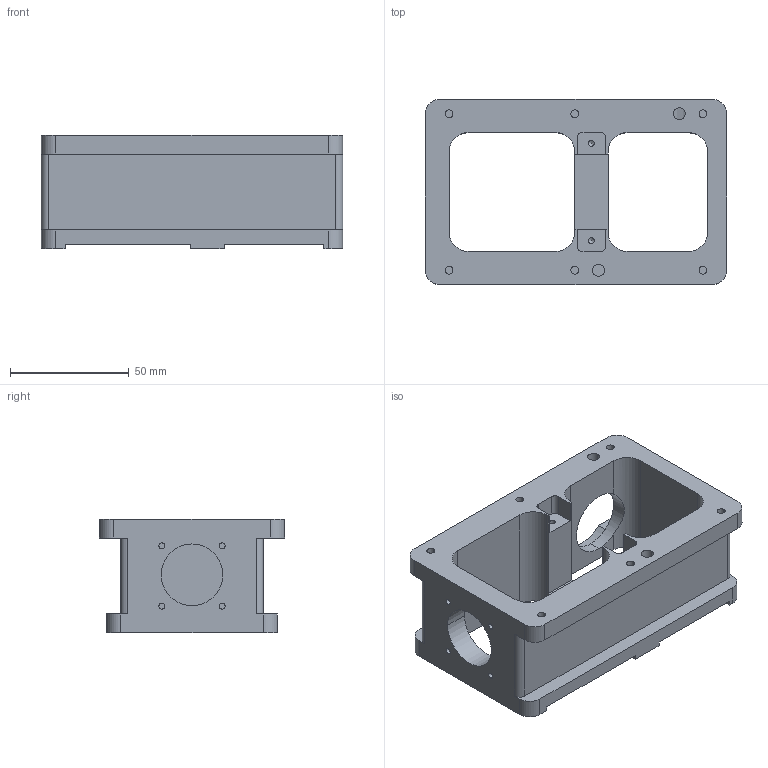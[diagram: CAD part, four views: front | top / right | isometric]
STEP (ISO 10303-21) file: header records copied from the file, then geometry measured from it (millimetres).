
FILE_DESCRIPTION( ('This file contains a STEP AP42 implementation' ,'as created by ZW3D STEP Interface translator.') ,'2;1' );
FILE_NAME( 'zkj-眊极.stp' ,'23 9 3.214433', (''), ('ZWCAD Software Co.'), 'Version 1.0', 'ZW3D to STEP translator', '' );
FILE_SCHEMA(('AUTOMOTIVE_DESIGN { 1 0 10303 214 1 1 1 1 }'));
Length unit declared in the file: millimetre
Products named in the file (2): 0; zkj-眊极
Bounding box: 127 x 78 x 48 mm (x, y, z)
Volume: 138948.6 mm3; surface area: 47393.4 mm2
Topology: 1 solids, 1 shells, 103 faces, 309 edges, 204 vertices
Faces by surface type: cylinder 61, plane 40, cone 2
Entity records: 3726 total; most frequent: DIRECTION 635, CARTESIAN_POINT 628, ORIENTED_EDGE 618, EDGE_CURVE 309, AXIS2_PLACEMENT_3D 223, VERTEX_POINT 206, VECTOR 189, LINE 189
